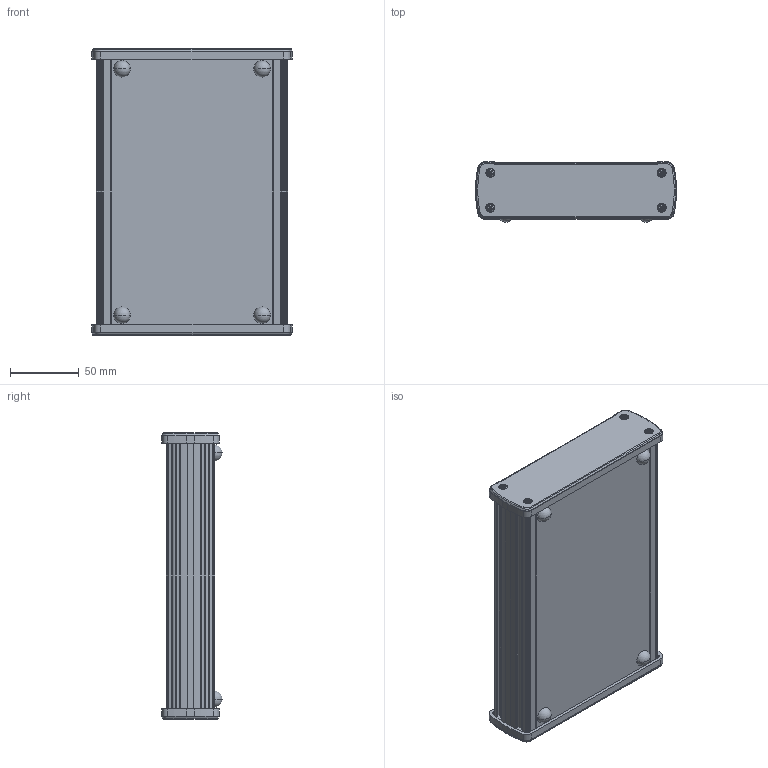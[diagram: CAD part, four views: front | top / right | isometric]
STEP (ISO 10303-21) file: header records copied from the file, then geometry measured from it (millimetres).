
FILE_DESCRIPTION (( 'STEP AP203' ), '1' );
FILE_NAME ('EX-62-01.step', '2017-08-29T18:19:47', ( '' ), ( '' ), 'SwSTEP 2.0', 'SolidWorks 2016', '' );
FILE_SCHEMA (( 'CONFIG_CONTROL_DESIGN' ));
Length unit declared in the file: inch
Products named in the file (7): EX-62-01; EX-59G; EX-59B-62B_EX-62B-01; EX-01A; pan cross head_ks_EX-01S-01; EX-59E_EX-59E-01; EX-01W
Assembly tree (25 placements, depth 2):
  EX-62-01
    EX-59B-62B_EX-62B-01
    EX-59E_EX-59E-01  x2
    EX-59G  x2
    pan cross head_ks_EX-01S-01  x8
    EX-01W  x8
    EX-01A  x4
Bounding box: 146.6 x 43.8 x 209.49 mm (x, y, z)
Volume: 236959.9 mm3; surface area: 204089.2 mm2
Topology: 25 solids, 25 shells, 1156 faces, 2928 edges, 1820 vertices
Faces by surface type: plane 452, cylinder 440, cone 112, torus 112, sphere 40
Entity records: 20273 total; most frequent: CARTESIAN_POINT 4012, DIRECTION 3290, ORIENTED_EDGE 3108, EDGE_CURVE 1554, AXIS2_PLACEMENT_3D 1212, VERTEX_POINT 990, LINE 866, VECTOR 866
